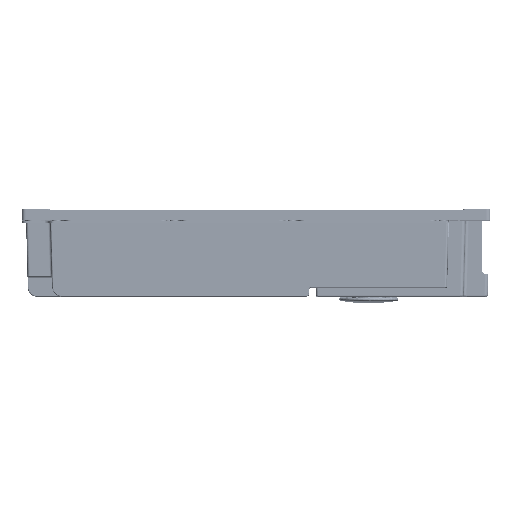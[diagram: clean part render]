
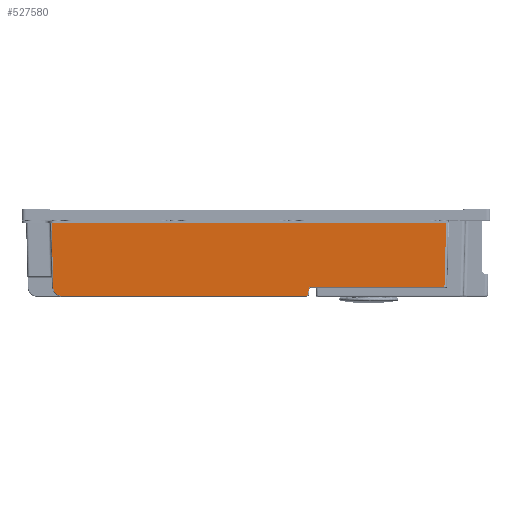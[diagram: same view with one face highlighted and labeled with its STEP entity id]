
A CAD part, top view. The second image highlights one B-rep face of the part: STEP entity #527580.
In plain terms, the highlighted planar face has unit normal (0, -0.026, 1).
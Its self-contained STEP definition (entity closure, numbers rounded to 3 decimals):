
#11250=CARTESIAN_POINT('',(-158.7,21.75,71.5));
#11260=VERTEX_POINT('',#11250);
#13800=CARTESIAN_POINT('',(178.501,21.75,71.5));
#13810=VERTEX_POINT('',#13800);
#13840=CARTESIAN_POINT('',(-158.7,21.75,71.5));
#13850=DIRECTION('',(1.,0.,0.));
#13860=VECTOR('',#13850,1.);
#13870=LINE('',#13840,#13860);
#13880=EDGE_CURVE('',#11260,#13810,#13870,.T.);
#23440=CARTESIAN_POINT('',(-157.257,-33.359,
70.057));
#23450=VERTEX_POINT('',#23440);
#23550=CARTESIAN_POINT('',(-157.257,-33.359,
70.057));
#23560=DIRECTION('',(-0.026,0.999,
0.026));
#23570=VECTOR('',#23560,1.);
#23580=LINE('',#23550,#23570);
#23590=EDGE_CURVE('',#23450,#11260,#23580,.T.);
#24060=CARTESIAN_POINT('',(-150.06,-40.371,
69.873));
#24070=CARTESIAN_POINT('',(-150.642,-40.371,
69.873));
#24080=CARTESIAN_POINT('',(-151.76,-40.231,
69.877));
#24090=CARTESIAN_POINT('',(-153.289,-39.675,
69.892));
#24100=CARTESIAN_POINT('',(-154.686,-38.772,
69.915));
#24110=CARTESIAN_POINT('',(-155.82,-37.582,
69.946));
#24120=CARTESIAN_POINT('',(-156.577,-36.334,
69.979));
#24130=CARTESIAN_POINT('',(-157.073,-35.015,
70.014));
#24140=CARTESIAN_POINT('',(-157.242,-33.937,
70.042));
#24150=CARTESIAN_POINT('',(-157.257,-33.359,
70.057));
#24160=B_SPLINE_CURVE_WITH_KNOTS('',3,(#24060,#24070,#24080,#24090,
#24100,#24110,#24120,#24130,#24140,#24150),.UNSPECIFIED.,.F.,.F.,(4,1,1,
1,1,1,1,4),(0.,0.143,0.286,0.429,
0.571,0.714,0.857,1.),.UNSPECIFIED.)
;
#24170=CARTESIAN_POINT('',(-150.06,-40.371,
69.873));
#24180=VERTEX_POINT('',#24170);
#24190=EDGE_CURVE('',#24180,#23450,#24160,.T.);
#24520=CARTESIAN_POINT('',(58.622,-40.371,
69.873));
#24530=DIRECTION('',(-1.,0.,0.));
#24540=VECTOR('',#24530,1.);
#24550=LINE('',#24520,#24540);
#24560=CARTESIAN_POINT('',(58.622,-40.371,
69.873));
#24570=VERTEX_POINT('',#24560);
#24580=EDGE_CURVE('',#24570,#24180,#24550,.T.);
#25160=CARTESIAN_POINT('',(60.821,-38.229,
69.929));
#25170=CARTESIAN_POINT('',(60.815,-38.478,
69.923));
#25180=CARTESIAN_POINT('',(60.722,-38.931,
69.911));
#25190=CARTESIAN_POINT('',(60.413,-39.495,
69.896));
#25200=CARTESIAN_POINT('',(60.02,-39.895,
69.886));
#25210=CARTESIAN_POINT('',(59.608,-40.155,
69.879));
#25220=CARTESIAN_POINT('',(59.168,-40.321,
69.875));
#25230=CARTESIAN_POINT('',(58.812,-40.371,
69.873));
#25240=CARTESIAN_POINT('',(58.622,-40.371,
69.873));
#25250=B_SPLINE_CURVE_WITH_KNOTS('',3,(#25160,#25170,#25180,#25190,
#25200,#25210,#25220,#25230,#25240),.UNSPECIFIED.,.F.,.F.,(4,1,1,1,1,1,4
),(0.,0.167,0.333,0.5,0.667,
0.833,1.),.UNSPECIFIED.);
#25260=CARTESIAN_POINT('',(60.821,-38.229,
69.929));
#25270=VERTEX_POINT('',#25260);
#25280=EDGE_CURVE('',#25270,#24570,#25250,.T.);
#28980=CARTESIAN_POINT('',(177.068,-32.971,
70.067));
#28990=VERTEX_POINT('',#28980);
#29520=CARTESIAN_POINT('',(62.712,-32.971,
70.067));
#29530=VERTEX_POINT('',#29520);
#29560=CARTESIAN_POINT('',(177.068,-32.971,
70.067));
#29570=DIRECTION('',(-1.,0.,0.));
#29580=VECTOR('',#29570,1.);
#29590=LINE('',#29560,#29580);
#29600=EDGE_CURVE('',#28990,#29530,#29590,.T.);
#30360=CARTESIAN_POINT('',(60.913,-34.724,
70.021));
#30370=VERTEX_POINT('',#30360);
#30400=CARTESIAN_POINT('',(62.712,-32.971,
70.067));
#30410=CARTESIAN_POINT('',(62.636,-32.971,
70.067));
#30420=CARTESIAN_POINT('',(62.486,-32.981,
70.067));
#30430=CARTESIAN_POINT('',(62.265,-33.022,
70.066));
#30440=CARTESIAN_POINT('',(62.047,-33.093,
70.064));
#30450=CARTESIAN_POINT('',(61.833,-33.194,
70.061));
#30460=CARTESIAN_POINT('',(61.622,-33.331,
70.058));
#30470=CARTESIAN_POINT('',(61.421,-33.507,
70.053));
#30480=CARTESIAN_POINT('',(61.244,-33.717,
70.048));
#30490=CARTESIAN_POINT('',(61.099,-33.956,
70.041));
#30500=CARTESIAN_POINT('',(60.994,-34.211,
70.035));
#30510=CARTESIAN_POINT('',(60.931,-34.473,
70.028));
#30520=CARTESIAN_POINT('',(60.915,-34.641,
70.023));
#30530=CARTESIAN_POINT('',(60.913,-34.724,
70.021));
#30540=B_SPLINE_CURVE_WITH_KNOTS('',3,(#30400,#30410,#30420,#30430,
#30440,#30450,#30460,#30470,#30480,#30490,#30500,#30510,#30520,#30530),
.UNSPECIFIED.,.F.,.F.,(4,1,1,1,1,1,1,1,1,1,1,4),(0.,0.091,
0.182,0.273,0.364,0.455,
0.545,0.636,0.727,0.818,
0.909,1.),.UNSPECIFIED.);
#30550=EDGE_CURVE('',#29530,#30370,#30540,.T.);
#30840=CARTESIAN_POINT('',(60.913,-34.724,
70.021));
#30850=DIRECTION('',(-0.026,-0.999,
-0.026));
#30860=VECTOR('',#30850,1.);
#30870=LINE('',#30840,#30860);
#30880=EDGE_CURVE('',#30370,#25270,#30870,.T.);
#437450=CARTESIAN_POINT('',(177.068,-32.971,
70.067));
#437460=DIRECTION('',(0.026,0.999,
0.026));
#437470=VECTOR('',#437460,1.);
#437480=LINE('',#437450,#437470);
#437490=EDGE_CURVE('',#28990,#13810,#437480,.T.);
#527420=CARTESIAN_POINT('',(-186.625,21.75,71.5));
#527430=DIRECTION('',(0.,-0.026,1.));
#527440=DIRECTION('',(-1.,0.,0.));
#527450=AXIS2_PLACEMENT_3D('',#527420,#527430,#527440);
#527460=PLANE('',#527450);
#527470=ORIENTED_EDGE('',*,*,#437490,.T.);
#527480=ORIENTED_EDGE('',*,*,#29600,.F.);
#527490=ORIENTED_EDGE('',*,*,#30550,.F.);
#527500=ORIENTED_EDGE('',*,*,#30880,.F.);
#527510=ORIENTED_EDGE('',*,*,#25280,.F.);
#527520=ORIENTED_EDGE('',*,*,#24580,.F.);
#527530=ORIENTED_EDGE('',*,*,#24190,.F.);
#527540=ORIENTED_EDGE('',*,*,#23590,.F.);
#527550=ORIENTED_EDGE('',*,*,#13880,.F.);
#527560=EDGE_LOOP('',(#527550,#527540,#527530,#527520,#527510,#527500,
#527490,#527480,#527470));
#527570=FACE_OUTER_BOUND('',#527560,.T.);
#527580=ADVANCED_FACE('',(#527570),#527460,.T.);
